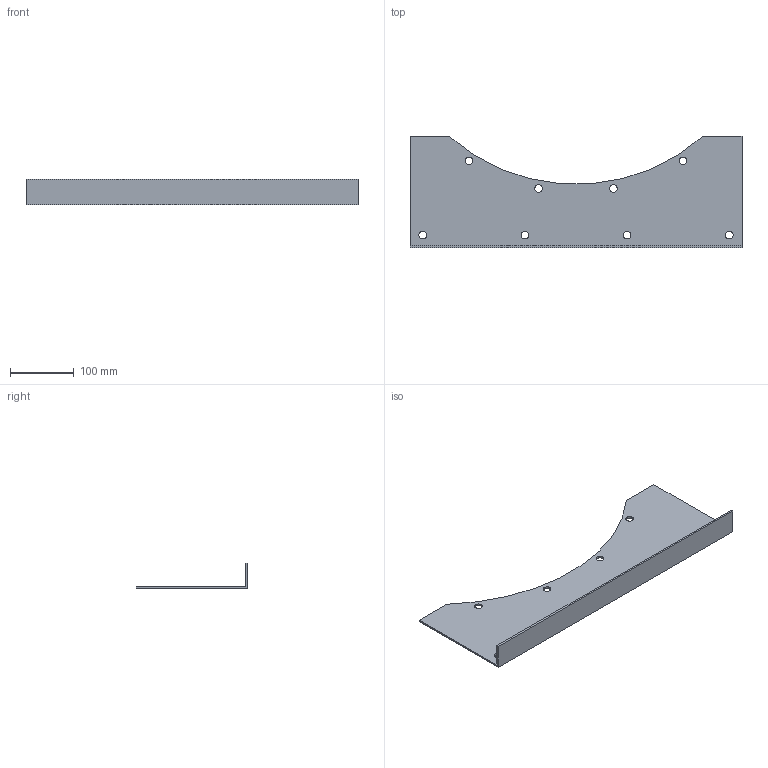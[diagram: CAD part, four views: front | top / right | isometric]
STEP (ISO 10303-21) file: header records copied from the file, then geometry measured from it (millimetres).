
FILE_DESCRIPTION(('STEP AP214'),'1');
FILE_NAME('accessory_5138888200.stp','2017-10-09T07:38:46',('TraceParts'),('TraceParts S.A.'),'Spatial InterOp 3D',' ',' ');
FILE_SCHEMA(('automotive_design'));
Length unit declared in the file: millimetre
Products named in the file (1): accessory_5138888200
Bounding box: 520 x 175 x 40 mm (x, y, z)
Volume: 266156.7 mm3; surface area: 182846 mm2
Topology: 1 solids, 1 shells, 26 faces, 72 edges, 48 vertices
Faces by surface type: cylinder 17, plane 9
Entity records: 1106 total; most frequent: DIRECTION 160, CARTESIAN_POINT 147, ORIENTED_EDGE 144, EDGE_CURVE 72, AXIS2_PLACEMENT_3D 61, VERTEX_POINT 48, EDGE_LOOP 42, LINE 38
